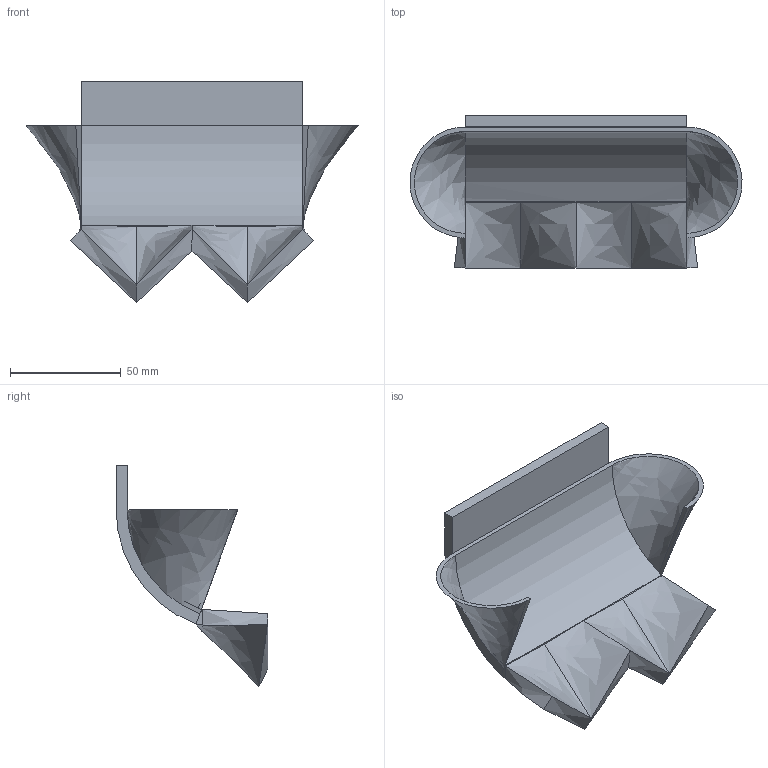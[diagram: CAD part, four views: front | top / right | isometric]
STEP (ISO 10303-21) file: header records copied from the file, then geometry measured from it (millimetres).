
FILE_DESCRIPTION(/* description */ (''),/* implementation_level */ '2;1');
FILE_NAME(/* name */ 'Middle.step',/* time_stamp */ '2026-02-21T18:57:05+05:30',/* author */ (''),/* organization */ (''),/* preprocessor_version */ 'ST-DEVELOPER v20.1',/* originating_system */ 'Autodesk Translation Framework v14.24.0.0',/* authorisation */ '');
FILE_SCHEMA (('AUTOMOTIVE_DESIGN { 1 0 10303 214 3 1 1 }'));
Length unit declared in the file: millimetre
Products named in the file (1): Middle
Bounding box: 149.95 x 68.58 x 100.01 mm (x, y, z)
Volume: 88003.5 mm3; surface area: 36182.9 mm2
Topology: 1 solids, 1 shells, 47 faces, 116 edges, 67 vertices
Faces by surface type: bspline 32, plane 13, cylinder 2
Entity records: 2847 total; most frequent: CARTESIAN_POINT 1889, ORIENTED_EDGE 224, DIRECTION 124, EDGE_CURVE 112, VERTEX_POINT 67, LINE 64, VECTOR 64, FACE_OUTER_BOUND 47
